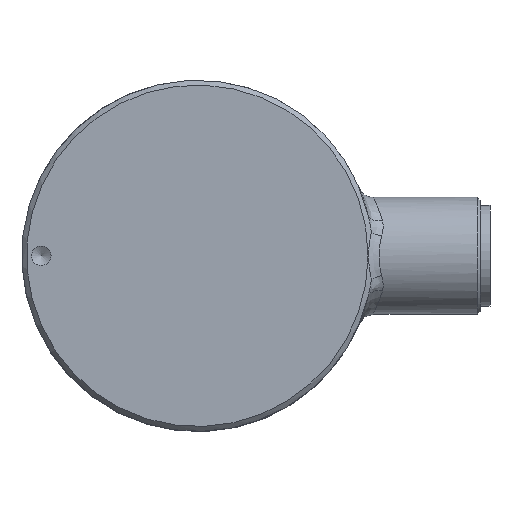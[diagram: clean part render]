
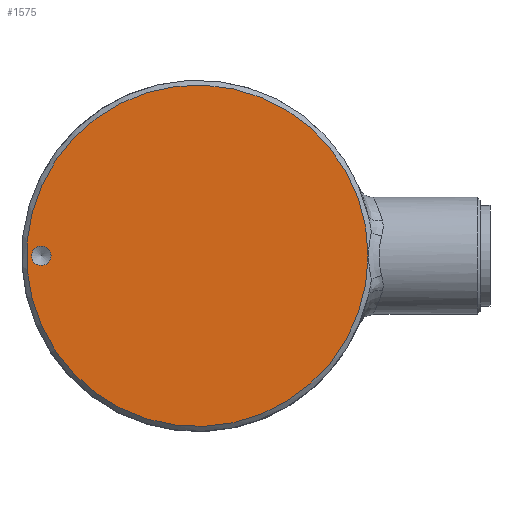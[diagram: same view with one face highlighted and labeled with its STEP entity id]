
A CAD part, top view. The second image highlights one B-rep face of the part: STEP entity #1575.
In plain terms, the highlighted planar face has unit normal (0, 0, 1).
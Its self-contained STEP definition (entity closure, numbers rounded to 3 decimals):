
#1548=CARTESIAN_POINT('',(0.,0.,24.3));
#1549=DIRECTION('',(0.0,0.0,-1.0));
#1550=DIRECTION('',(-1.0,0.0,0.0));
#1551=AXIS2_PLACEMENT_3D('',#1548,#1549,#1550);
#1552=PLANE('',#1551);
#1553=CARTESIAN_POINT('',(17.5,0.,24.3));
#1554=VERTEX_POINT('',#1553);
#1555=CARTESIAN_POINT('',(0.,0.,24.3));
#1556=DIRECTION('',(0.0,0.0,-1.0));
#1557=DIRECTION('',(-1.0,0.0,0.0));
#1558=AXIS2_PLACEMENT_3D('',#1555,#1556,#1557);
#1559=CIRCLE('',#1558,17.5);
#1560=EDGE_CURVE('',#1554,#1554,#1559,.T.);
#1561=ORIENTED_EDGE('',*,*,#1560,.F.);
#1562=EDGE_LOOP('',(#1561));
#1563=FACE_OUTER_BOUND('',#1562,.T.);
#1564=CARTESIAN_POINT('',(-15.,0.,24.3));
#1565=VERTEX_POINT('',#1564);
#1566=CARTESIAN_POINT('',(-16.,0.,24.3));
#1567=DIRECTION('',(0.0,0.0,-1.0));
#1568=DIRECTION('',(1.0,0.0,0.0));
#1569=AXIS2_PLACEMENT_3D('',#1566,#1567,#1568);
#1570=CIRCLE('',#1569,1.0);
#1571=EDGE_CURVE('',#1565,#1565,#1570,.T.);
#1572=ORIENTED_EDGE('',*,*,#1571,.T.);
#1573=EDGE_LOOP('',(#1572));
#1574=FACE_BOUND('',#1573,.T.);
#1575=ADVANCED_FACE('',(#1563,#1574),#1552,.F.);
